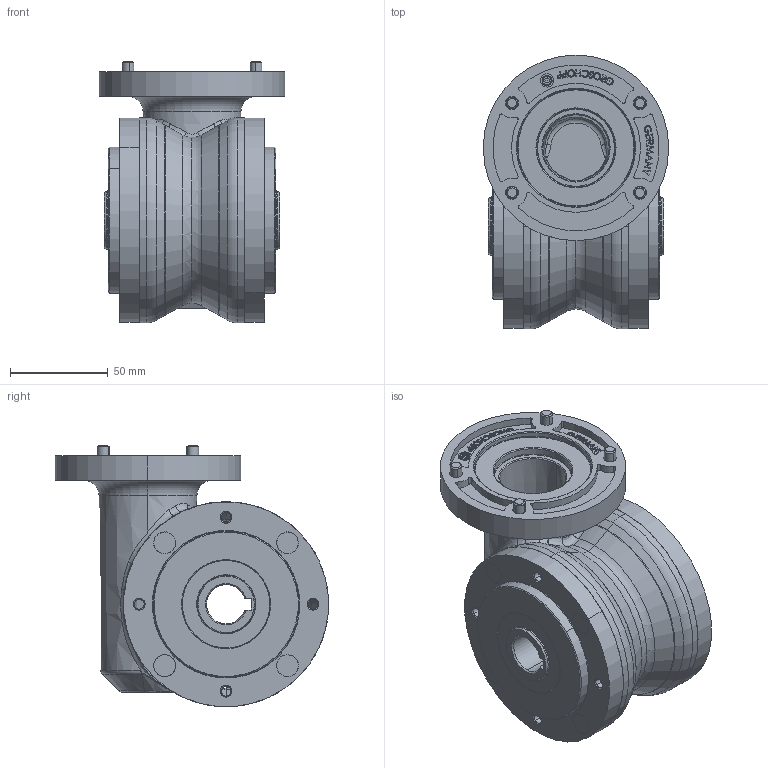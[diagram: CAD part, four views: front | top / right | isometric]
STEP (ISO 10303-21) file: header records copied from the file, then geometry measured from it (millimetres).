
FILE_DESCRIPTION (( 'STEP AP203' ), '1' );
FILE_NAME ('Getriebe VES40-D-H-X-+-2340992.STEP', '2017-06-14T11:47:33', ( '' ), ( '' ), 'SwSTEP 2.0', 'SolidWorks 2014', '' );
FILE_SCHEMA (( 'CONFIG_CONTROL_DESIGN' ));
Length unit declared in the file: millimetre
Products named in the file (1): Getriebe VES40-D-H-X-+-2340992
Bounding box: 95 x 140.07 x 134.07 mm (x, y, z)
Surface area: 87157.7 mm2 (no closed solid volume)
Topology: 0 solids, 23 shells, 460 faces, 1460 edges, 1000 vertices
Faces by surface type: plane 134, cylinder 123, bspline 100, cone 65, torus 38
Entity records: 22455 total; most frequent: CARTESIAN_POINT 10084, ORIENTED_EDGE 2432, DIRECTION 2423, EDGE_CURVE 1458, VERTEX_POINT 1000, AXIS2_PLACEMENT_3D 890, VECTOR 643, LINE 643
